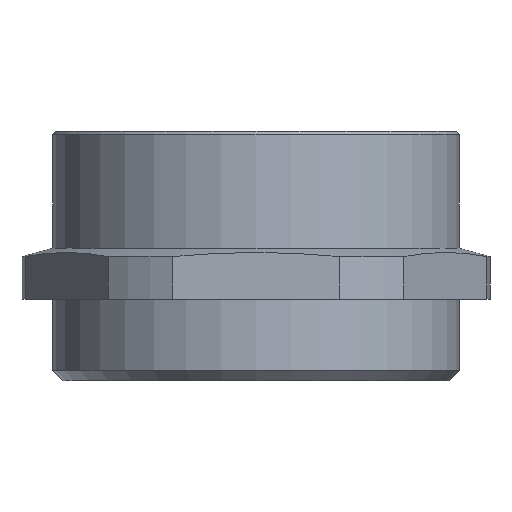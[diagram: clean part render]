
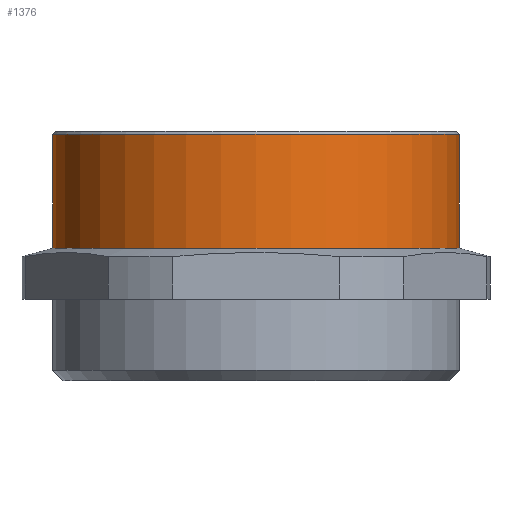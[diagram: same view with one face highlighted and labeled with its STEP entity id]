
A CAD part, left-side view. The second image highlights one B-rep face of the part: STEP entity #1376.
In plain terms, the highlighted cylindrical face has radius 20 mm (diameter 40 mm), a partial arc.
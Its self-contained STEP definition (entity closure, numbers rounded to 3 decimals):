
#49 = VECTOR ( 'NONE', #58, 1000. ) ;
#58 = DIRECTION ( 'NONE',  ( 0., 0., 1. ) ) ;
#59 = CARTESIAN_POINT ( 'NONE',  ( 0., -20., 0. ) ) ;
#60 = LINE ( 'NONE', #59, #49 ) ;
#64 = DIRECTION ( 'NONE',  ( 0., 0., 1. ) ) ;
#81 = CARTESIAN_POINT ( 'NONE',  ( 0., 20., -11.5 ) ) ;
#93 = CARTESIAN_POINT ( 'NONE',  ( 0., 20., 0. ) ) ;
#94 = LINE ( 'NONE', #93, #99 ) ;
#99 = VECTOR ( 'NONE', #64, 1000. ) ;
#135 = CARTESIAN_POINT ( 'NONE',  ( 0., -20., -11.5 ) ) ;
#223 = CARTESIAN_POINT ( 'NONE',  ( 0., 20., -0.3 ) ) ;
#351 = CARTESIAN_POINT ( 'NONE',  ( 0., -20., -0.3 ) ) ;
#475 = DIRECTION ( 'NONE',  ( 0., -1., 0. ) ) ;
#476 = DIRECTION ( 'NONE',  ( 0., 0., 1. ) ) ;
#477 = CARTESIAN_POINT ( 'NONE',  ( 0., 0., -11.5 ) ) ;
#478 = AXIS2_PLACEMENT_3D ( 'NONE', #477, #476, #475 ) ;
#479 = CIRCLE ( 'NONE', #478, 20. ) ;
#492 = CARTESIAN_POINT ( 'NONE',  ( 0., 0., -0.3 ) ) ;
#493 = AXIS2_PLACEMENT_3D ( 'NONE', #492, #560, #559 ) ;
#559 = DIRECTION ( 'NONE',  ( 0., 1., 0. ) ) ;
#560 = DIRECTION ( 'NONE',  ( 0., 0., -1. ) ) ;
#615 = CIRCLE ( 'NONE', #493, 20. ) ;
#656 = CARTESIAN_POINT ( 'NONE',  ( 0., 0., 0. ) ) ;
#671 = FACE_OUTER_BOUND ( 'NONE', #1378, .T. ) ;
#687 = DIRECTION ( 'NONE',  ( 0., 0., 1. ) ) ;
#699 = AXIS2_PLACEMENT_3D ( 'NONE', #656, #687, #713 ) ;
#713 = DIRECTION ( 'NONE',  ( 0., -1., 0. ) ) ;
#714 = CYLINDRICAL_SURFACE ( 'NONE', #699, 20. ) ;
#1041 = VERTEX_POINT ( 'NONE', #81 ) ;
#1047 = EDGE_CURVE ( 'NONE', #1041, #1136, #94, .T. ) ;
#1063 = EDGE_CURVE ( 'NONE', #1101, #1143, #60, .T. ) ;
#1101 = VERTEX_POINT ( 'NONE', #135 ) ;
#1136 = VERTEX_POINT ( 'NONE', #223 ) ;
#1143 = VERTEX_POINT ( 'NONE', #351 ) ;
#1257 = EDGE_CURVE ( 'NONE', #1041, #1101, #479, .T. ) ;
#1354 = ORIENTED_EDGE ( 'NONE', *, *, #1358, .T. ) ;
#1358 = EDGE_CURVE ( 'NONE', #1143, #1136, #615, .T. ) ;
#1361 = ORIENTED_EDGE ( 'NONE', *, *, #1063, .T. ) ;
#1376 = ADVANCED_FACE ( 'NONE', ( #671 ), #714, .T. ) ;
#1378 = EDGE_LOOP ( 'NONE', ( #1379, #1380, #1361, #1354 ) ) ;
#1379 = ORIENTED_EDGE ( 'NONE', *, *, #1047, .F. ) ;
#1380 = ORIENTED_EDGE ( 'NONE', *, *, #1257, .T. ) ;
